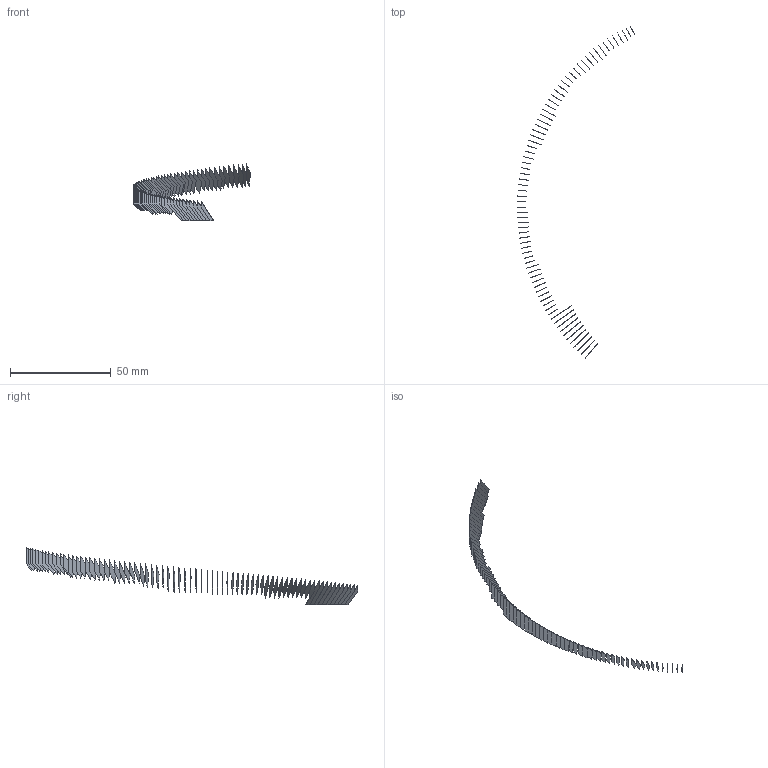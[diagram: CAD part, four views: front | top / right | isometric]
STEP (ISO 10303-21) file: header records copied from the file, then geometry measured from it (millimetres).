
FILE_DESCRIPTION(('FreeCAD Model'),'2;1');
FILE_NAME('Open CASCADE Shape Model','2022-05-21T09:28:01',('FreeCAD'),( 'FreeCAD'),'Open CASCADE STEP processor 7.5','FreeCAD','Unknown');
FILE_SCHEMA(('AUTOMOTIVE_DESIGN { 1 0 10303 214 1 1 1 1 }'));
Length unit declared in the file: millimetre
Products named in the file (75): Open CASCADE STEP translator 7.5 1; Open CASCADE STEP translator 7.5 1.1; Open CASCADE STEP translator 7.5 1.2; Open CASCADE STEP translator 7.5 1.3; Open CASCADE STEP translator 7.5 1.4; Open CASCADE STEP translator 7.5 1.5; Open CASCADE STEP translator 7.5 1.6; Open CASCADE STEP translator 7.5 1.7; Open CASCADE STEP translator 7.5 1.8; Open CASCADE STEP translator 7.5 1.9; Open CASCADE STEP translator 7.5 1.10; Open CASCADE STEP translator 7.5 1.11; Open CASCADE STEP translator 7.5 1.12; Open CASCADE STEP translator 7.5 1.13; Open CASCADE STEP translator 7.5 1.14; Open CASCADE STEP translator 7.5 1.15; Open CASCADE STEP translator 7.5 1.16; Open CASCADE STEP translator 7.5 1.17; Open CASCADE STEP translator 7.5 1.18; Open CASCADE STEP translator 7.5 1.19; Open CASCADE STEP translator 7.5 1.20; Open CASCADE STEP translator 7.5 1.21; Open CASCADE STEP translator 7.5 1.22; Open CASCADE STEP translator 7.5 1.23; Open CASCADE STEP translator 7.5 1.24; Open CASCADE STEP translator 7.5 1.25; Open CASCADE STEP translator 7.5 1.26; Open CASCADE STEP translator 7.5 1.27; Open CASCADE STEP translator 7.5 1.28; Open CASCADE STEP translator 7.5 1.29; Open CASCADE STEP translator 7.5 1.30; Open CASCADE STEP translator 7.5 1.31; Open CASCADE STEP translator 7.5 1.32; Open CASCADE STEP translator 7.5 1.33; Open CASCADE STEP translator 7.5 1.34; Open CASCADE STEP translator 7.5 1.35; Open CASCADE STEP translator 7.5 1.36; Open CASCADE STEP translator 7.5 1.37; Open CASCADE STEP translator 7.5 1.38; Open CASCADE STEP translator 7.5 1.39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
Assembly tree (74 placements, depth 2):
  Open CASCADE STEP translator 7.5 1
    Open CASCADE STEP translator 7.5 1.1
    Open CASCADE STEP translator 7.5 1.2
    Open CASCADE STEP translator 7.5 1.3
    Open CASCADE STEP translator 7.5 1.4
    Open CASCADE STEP translator 7.5 1.5
    Open CASCADE STEP translator 7.5 1.6
    Open CASCADE STEP translator 7.5 1.7
    Open CASCADE STEP translator 7.5 1.8
    Open CASCADE STEP translator 7.5 1.9
    Open CASCADE STEP translator 7.5 1.10
    Open CASCADE STEP translator 7.5 1.11
    Open CASCADE STEP translator 7.5 1.12
    Open CASCADE STEP translator 7.5 1.13
    Open CASCADE STEP translator 7.5 1.14
    Open CASCADE STEP translator 7.5 1.15
    Open CASCADE STEP translator 7.5 1.16
    Open CASCADE STEP translator 7.5 1.17
    Open CASCADE STEP translator 7.5 1.18
    Open CASCADE STEP translator 7.5 1.19
    Open CASCADE STEP translator 7.5 1.20
    Open CASCADE STEP translator 7.5 1.21
    Open CASCADE STEP translator 7.5 1.22
    Open CASCADE STEP translator 7.5 1.23
    Open CASCADE STEP translator 7.5 1.24
    Open CASCADE STEP translator 7.5 1.25
    Open CASCADE STEP translator 7.5 1.26
    Open CASCADE STEP translator 7.5 1.27
    Open CASCADE STEP translator 7.5 1.28
    Open CASCADE STEP translator 7.5 1.29
    Open CASCADE STEP translator 7.5 1.30
    Open CASCADE STEP translator 7.5 1.31
    Open CASCADE STEP translator 7.5 1.32
    Open CASCADE STEP translator 7.5 1.33
    Open CASCADE STEP translator 7.5 1.34
    Open CASCADE STEP translator 7.5 1.35
    Open CASCADE STEP translator 7.5 1.36
    Open CASCADE STEP translator 7.5 1.37
    Open CASCADE STEP translator 7.5 1.38
    Open CASCADE STEP translator 7.5 1.39
    Open CASCADE STEP translator 7.5 1.40
    Open CASCADE STEP translator 7.5 1.41
    Open CASCADE STEP translator 7.5 1.42
    Open CASCADE STEP translator 7.5 1.43
    Open CASCADE STEP translator 7.5 1.44
    Open CASCADE STEP translator 7.5 1.45
    Open CASCADE STEP translator 7.5 1.46
    Open CASCADE STEP translator 7.5 1.47
    Open CASCADE STEP translator 7.5 1.48
    Open CASCADE STEP translator 7.5 1.49
    Open CASCADE STEP translator 7.5 1.50
    Open CASCADE STEP translator 7.5 1.51
    Open CASCADE STEP translator 7.5 1.52
    Open CASCADE STEP translator 7.5 1.53
    Open CASCADE STEP translator 7.5 1.54
    Open CASCADE STEP translator 7.5 1.55
    Open CASCADE STEP translator 7.5 1.56
    Open CASCADE STEP translator 7.5 1.57
    Open CASCADE STEP translator 7.5 1.58
    Open CASCADE STEP translator 7.5 1.59
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Bounding box: 58.03 x 164.41 x 28.3 mm (x, y, z)
Surface area: 2265.3 mm2 (no closed solid volume)
Topology: 0 solids, 74 shells, 74 faces, 3238 edges, 3238 vertices
Faces by surface type: bspline 74
Entity records: 44182 total; most frequent: CARTESIAN_POINT 16561, B_SPLINE_CURVE_WITH_KNOTS 6476, ORIENTED_EDGE 3238, EDGE_CURVE 3238, VERTEX_POINT 3238, SURFACE_CURVE 3238, PCURVE 3238, DEFINITIONAL_REPRESENTATION 3238
